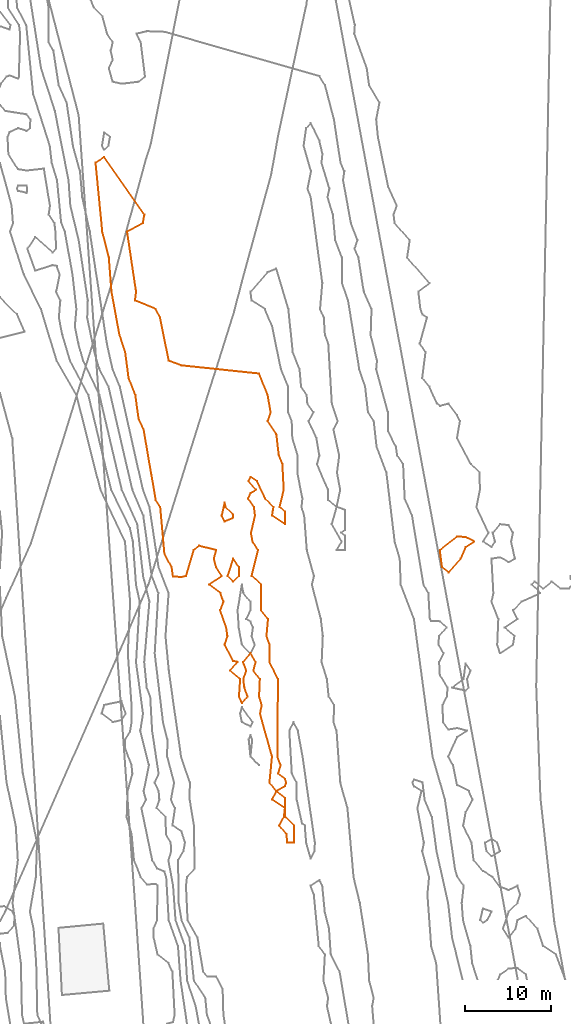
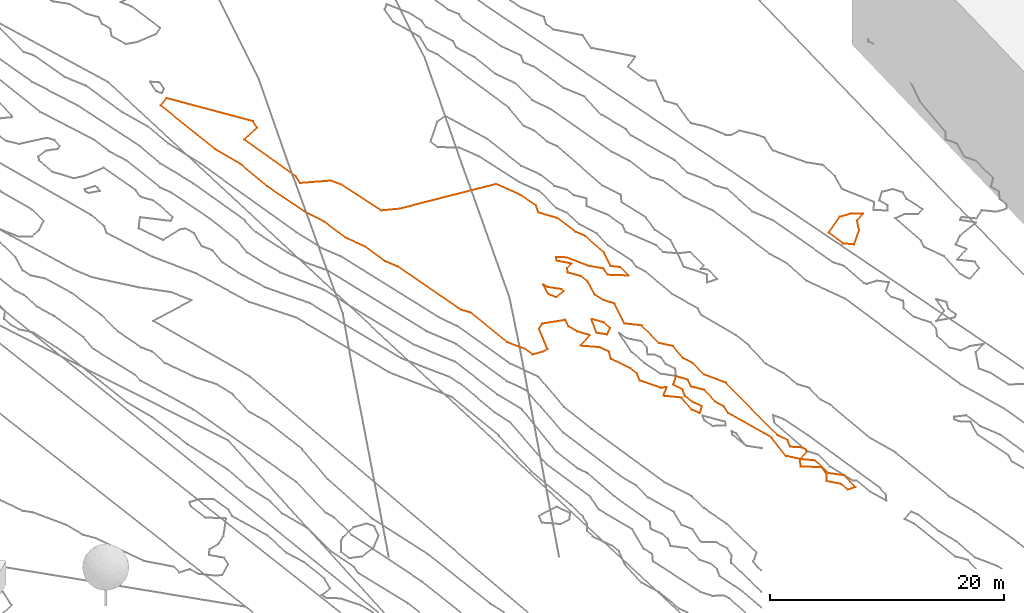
# Not in any storey, part 302 of 419: 4 proxies.
"""IFC2X3 model written with IfcOpenShell, lengths in metres."""

from ifc_helpers import new_model, entity, si_unit, frame, origin_with_axes, place, context, subcontext, project, element, save


model = new_model("IFC2X3")

# Units and contexts
model_context = context("Model", 3, precision=1e-05, world=origin_with_axes())
body_context = subcontext(model_context, "Body", "Model", "MODEL_VIEW")
ifc_project = project(units=[si_unit("AREAUNIT", "SQUARE_METRE"), si_unit("LENGTHUNIT", "METRE")], contexts=[model_context])

# Proxies
proxy_1_placement = place(None, frame((160.7586870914, 906.8976909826, 31.0), z_axis=(0.0, 0.0, 1.0), x_axis=(1.0, 0.0, 0.0)))
element("IfcBuildingElementProxy", 1, at=proxy_1_placement, Name="Contour 31.0 m", ObjectType="NOTDEFINED", context=body_context, shape_type="GeometricCurveSet", body=[
    entity("IfcGeometricCurveSet", [entity("IfcPolyline", [entity("IfcCartesianPoint", [1.3333333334, -0.25, 0.0]), entity("IfcCartesianPoint", [1.3333333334, 0.1250029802, 0.0]), entity("IfcCartesianPoint", [0.4583363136, 1.0, 0.0]), entity("IfcCartesianPoint", [0.3333333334, 1.4999500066, 0.0]), entity("IfcCartesianPoint", [0.0, 0.0, 0.0]), entity("IfcCartesianPoint", [0.3333333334, -0.666666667, 0.0]), entity("IfcCartesianPoint", [1.3333333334, -0.25, 0.0])])]),
])
proxy_2_placement = place(None, frame((186.092045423, 902.8976909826, 31.0), z_axis=(0.0, 0.0, 1.0), x_axis=(1.0, 0.0, 0.0)))
element("IfcBuildingElementProxy", 2, at=proxy_2_placement, Name="Contour 31.0 m", ObjectType="NOTDEFINED", context=body_context, shape_type="GeometricCurveSet", body=[
    entity("IfcGeometricCurveSet", [entity("IfcPolyline", [entity("IfcCartesianPoint", [0.9999750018, -2.5999999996, 0.0]), entity("IfcCartesianPoint", [2.4285464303, -1.0, 0.0]), entity("IfcCartesianPoint", [2.9999750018, 0.333333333, 0.0]), entity("IfcCartesianPoint", [3.9999250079, 1.0, 0.0]), entity("IfcCartesianPoint", [2.9999750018, 1.4999750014, 0.0]), entity("IfcCartesianPoint", [1.9999750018, 1.5714285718, 0.0]), entity("IfcCartesianPoint", [0.0, 0.0, 0.0]), entity("IfcCartesianPoint", [0.2499750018, -2.0, 0.0]), entity("IfcCartesianPoint", [0.9999750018, -2.5999999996, 0.0])])]),
])
proxy_3_placement = place(None, frame((161.4253537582, 899.8976909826, 31.0), z_axis=(0.0, 0.0, 1.0), x_axis=(1.0, 0.0, 0.0)))
element("IfcBuildingElementProxy", 3, at=proxy_3_placement, Name="Contour 31.0 m", ObjectType="NOTDEFINED", context=body_context, shape_type="GeometricCurveSet", body=[
    entity("IfcGeometricCurveSet", [entity("IfcPolyline", [entity("IfcCartesianPoint", [0.6666666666, -0.666666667, 0.0]), entity("IfcCartesianPoint", [1.3333333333, 0.0, 0.0]), entity("IfcCartesianPoint", [1.3333333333, 1.0, 0.0]), entity("IfcCartesianPoint", [0.6666666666, 1.9999750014, 0.0]), entity("IfcCartesianPoint", [0.0, 0.0, 0.0]), entity("IfcCartesianPoint", [0.6666666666, -0.666666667, 0.0])])]),
])
proxy_4_placement = place(None, frame((146.0920168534, 947.8976909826, 31.0), z_axis=(0.0, 0.0, 1.0), x_axis=(1.0, 0.0, 0.0)))
element("IfcBuildingElementProxy", 4, at=proxy_4_placement, Name="Contour 31.0 m", ObjectType="NOTDEFINED", context=body_context, shape_type="GeometricCurveSet", body=[
    entity("IfcGeometricCurveSet", [entity("IfcPolyline", [entity("IfcCartesianPoint", [23.0389654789, -79.0, 0.0]), entity("IfcCartesianPoint", [22.2500035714, -79.0, 0.0]), entity("IfcCartesianPoint", [22.2000035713, -78.0, 0.0]), entity("IfcCartesianPoint", [21.3333369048, -77.0, 0.0]), entity("IfcCartesianPoint", [21.8750005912, -76.0, 0.0]), entity("IfcCartesianPoint", [21.9999785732, -75.0, 0.0]), entity("IfcCartesianPoint", [20.4999785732, -74.0, 0.0]), entity("IfcCartesianPoint", [20.9999035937, -73.0, 0.0]), entity("IfcCartesianPoint", [20.2000035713, -72.0, 0.0]), entity("IfcCartesianPoint", [20.499991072, -69.0, 0.0]), entity("IfcCartesianPoint", [19.1111170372, -64.0, 0.0]), entity("IfcCartesianPoint", [19.3000092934, -63.0, 0.0]), entity("IfcCartesianPoint", [18.9999535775, -62.0, 0.0]), entity("IfcCartesianPoint", [19.0909142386, -60.0, 0.0]), entity("IfcCartesianPoint", [18.3333369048, -59.0, 0.0]), entity("IfcCartesianPoint", [18.599995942, -58.0, 0.0]), entity("IfcCartesianPoint", [18.0000035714, -57.000016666, 0.0]), entity("IfcCartesianPoint", [17.1428646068, -58.0, 0.0]), entity("IfcCartesianPoint", [17.5000285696, -59.0, 0.0]), entity("IfcCartesianPoint", [17.1666755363, -60.0, 0.0]), entity("IfcCartesianPoint", [17.2857256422, -61.0, 0.0]), entity("IfcCartesianPoint", [17.666670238, -62.0, 0.0]), entity("IfcCartesianPoint", [17.0000035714, -62.7999999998, 0.0]), entity("IfcCartesianPoint", [16.66666494, -62.0, 0.0]), entity("IfcCartesianPoint", [16.8000035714, -60.0, 0.0]), entity("IfcCartesianPoint", [15.6000035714, -59.0, 0.0]), entity("IfcCartesianPoint", [16.4999535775, -58.0, 0.0]), entity("IfcCartesianPoint", [16.0000035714, -57.8749970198, 0.0]), entity("IfcCartesianPoint", [14.9999924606, -56.0, 0.0]), entity("IfcCartesianPoint", [15.312499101, -55.0, 0.0]), entity("IfcCartesianPoint", [15.1818249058, -54.0, 0.0]), entity("IfcCartesianPoint", [14.4666693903, -52.0, 0.0]), entity("IfcCartesianPoint", [14.857142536, -51.0, 0.0]), entity("IfcCartesianPoint", [14.4999535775, -50.0, 0.0]), entity("IfcCartesianPoint", [13.2000035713, -49.0, 0.0]), entity("IfcCartesianPoint", [14.666670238, -48.0, 0.0]), entity("IfcCartesianPoint", [14.0000035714, -47.0000499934, 0.0]), entity("IfcCartesianPoint", [13.7500035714, -46.0, 0.0]), entity("IfcCartesianPoint", [13.9999035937, -45.0, 0.0]), entity("IfcCartesianPoint", [12.0000035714, -44.500016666, 0.0]), entity("IfcCartesianPoint", [11.4000035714, -45.0, 0.0]), entity("IfcCartesianPoint", [10.5000535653, -48.0, 0.0]), entity("IfcCartesianPoint", [10.0000035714, -48.1428610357, 0.0]), entity("IfcCartesianPoint", [9.0000035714, -48.0740756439, 0.0]), entity("IfcCartesianPoint", [8.840003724, -47.0, 0.0]), entity("IfcCartesianPoint", [8.0000035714, -45.3999974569, 0.0]), entity("IfcCartesianPoint", [7.5172454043, -40.0, 0.0]), entity("IfcCartesianPoint", [7.0000035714, -39.2105305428, 0.0]), entity("IfcCartesianPoint", [5.5897469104, -31.0, 0.0]), entity("IfcCartesianPoint", [5.0000035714, -29.7368442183, 0.0]), entity("IfcCartesianPoint", [4.6279111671, -27.0, 0.0]), entity("IfcCartesianPoint", [3.8428600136, -25.0, 0.0]), entity("IfcCartesianPoint", [3.4444503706, -22.0, 0.0]), entity("IfcCartesianPoint", [2.7833377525, -20.0, 0.0]), entity("IfcCartesianPoint", [1.8550755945, -15.0, 0.0]), entity("IfcCartesianPoint", [1.548391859, -11.0, 0.0]), entity("IfcCartesianPoint", [0.7826129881, -8.0, 0.0]), entity("IfcCartesianPoint", [0.0, 0.0, 0.0]), entity("IfcCartesianPoint", [1.0000035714, 0.666666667, 0.0]), entity("IfcCartesianPoint", [5.666670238, -6.0, 0.0]), entity("IfcCartesianPoint", [5.5000285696, -7.0, 0.0]), entity("IfcCartesianPoint", [3.666670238, -8.0, 0.0]), entity("IfcCartesianPoint", [4.7142815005, -15.0, 0.0]), entity("IfcCartesianPoint", [4.5714321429, -16.0, 0.0]), entity("IfcCartesianPoint", [7.0000178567, -17.0, 0.0]), entity("IfcCartesianPoint", [7.5000285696, -18.0, 0.0]), entity("IfcCartesianPoint", [8.5000285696, -23.0, 0.0]), entity("IfcCartesianPoint", [10.0000035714, -23.5555461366, 0.0]), entity("IfcCartesianPoint", [19.0000035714, -24.4999500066, 0.0]), entity("IfcCartesianPoint", [20.0000035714, -26.999983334, 0.0]), entity("IfcCartesianPoint", [20.3448313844, -29.0, 0.0]), entity("IfcCartesianPoint", [20.0000083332, -30.0, 0.0]), entity("IfcCartesianPoint", [21.0000035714, -31.4999900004, 0.0]), entity("IfcCartesianPoint", [21.2941203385, -34.0, 0.0]), entity("IfcCartesianPoint", [21.7096799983, -35.0, 0.0]), entity("IfcCartesianPoint", [21.8666668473, -38.0, 0.0]), entity("IfcCartesianPoint", [21.3750125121, -40.0, 0.0]), entity("IfcCartesianPoint", [22.0000035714, -40.5555461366, 0.0]), entity("IfcCartesianPoint", [22.0000066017, -42.0, 0.0]), entity("IfcCartesianPoint", [20.4999935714, -41.0, 0.0]), entity("IfcCartesianPoint", [20.6666631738, -40.0, 0.0]), entity("IfcCartesianPoint", [19.7142815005, -39.0, 0.0]), entity("IfcCartesianPoint", [18.7500035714, -37.0, 0.0]), entity("IfcCartesianPoint", [18.0000035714, -36.500016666, 0.0]), entity("IfcCartesianPoint", [17.7692309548, -37.0, 0.0]), entity("IfcCartesianPoint", [18.666670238, -38.0, 0.0]), entity("IfcCartesianPoint", [18.0000035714, -38.3636426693, 0.0]), entity("IfcCartesianPoint", [17.7083378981, -39.0, 0.0]), entity("IfcCartesianPoint", [18.4117662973, -40.0, 0.0]), entity("IfcCartesianPoint", [18.5217430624, -41.0, 0.0]), entity("IfcCartesianPoint", [18.0526362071, -43.0, 0.0]), entity("IfcCartesianPoint", [18.241382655, -44.0, 0.0]), entity("IfcCartesianPoint", [18.8666668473, -45.0, 0.0]), entity("IfcCartesianPoint", [18.1111170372, -48.0, 0.0]), entity("IfcCartesianPoint", [19.2500035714, -49.0, 0.0]), entity("IfcCartesianPoint", [19.2000024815, -52.0, 0.0]), entity("IfcCartesianPoint", [20.0384659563, -53.0, 0.0]), entity("IfcCartesianPoint", [19.857142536, -55.0, 0.0]), entity("IfcCartesianPoint", [20.2195162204, -56.0, 0.0]), entity("IfcCartesianPoint", [20.2000024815, -58.0, 0.0]), entity("IfcCartesianPoint", [21.1935505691, -60.0, 0.0]), entity("IfcCartesianPoint", [21.1290382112, -69.0, 0.0]), entity("IfcCartesianPoint", [21.5000119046, -70.0, 0.0]), entity("IfcCartesianPoint", [21.1923095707, -71.0, 0.0]), entity("IfcCartesianPoint", [22.0000035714, -71.5833328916, 0.0]), entity("IfcCartesianPoint", [22.147061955, -72.0, 0.0]), entity("IfcCartesianPoint", [22.0000035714, -72.4285698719, 0.0]), entity("IfcCartesianPoint", [21.0000085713, -73.0, 0.0]), entity("IfcCartesianPoint", [22.0000035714, -73.8333306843, 0.0]), entity("IfcCartesianPoint", [22.0312543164, -76.0, 0.0]), entity("IfcCartesianPoint", [23.0500028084, -77.0, 0.0]), entity("IfcCartesianPoint", [23.0389654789, -79.0, 0.0])])]),
])

save(model, "model.ifc")
